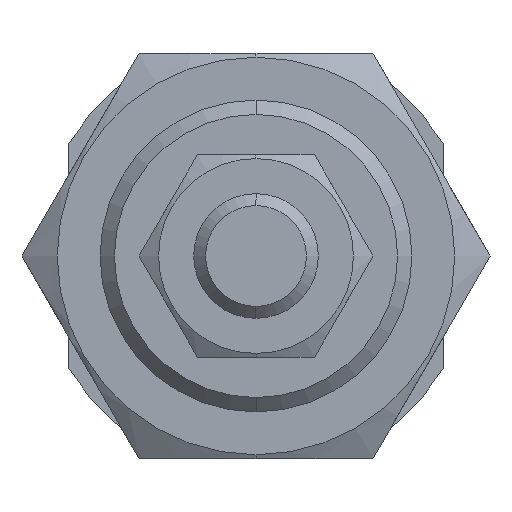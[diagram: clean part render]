
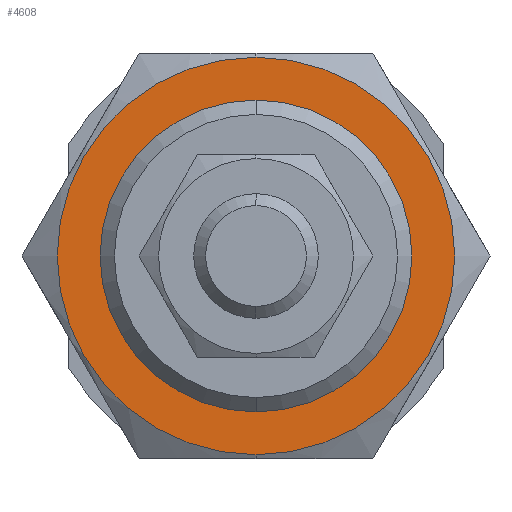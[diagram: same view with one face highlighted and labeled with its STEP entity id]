
A CAD part, left-side view. The second image highlights one B-rep face of the part: STEP entity #4608.
In plain terms, the highlighted planar face has unit normal (-1, 0, 0).
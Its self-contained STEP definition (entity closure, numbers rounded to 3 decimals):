
#135 = AXIS2_PLACEMENT_3D ( 'NONE', #2347, #2754, #1905 ) ;
#202 = AXIS2_PLACEMENT_3D ( 'NONE', #1641, #5344, #4572 ) ;
#298 = PLANE ( 'NONE',  #202 ) ;
#347 = FACE_OUTER_BOUND ( 'NONE', #364, .T. ) ;
#364 = EDGE_LOOP ( 'NONE', ( #3286, #2235 ) ) ;
#365 = VERTEX_POINT ( 'NONE', #1446 ) ;
#576 = VERTEX_POINT ( 'NONE', #3566 ) ;
#631 = EDGE_CURVE ( 'NONE', #3049, #576, #1173, .T. ) ;
#792 = AXIS2_PLACEMENT_3D ( 'NONE', #4427, #1520, #4456 ) ;
#804 = CARTESIAN_POINT ( 'NONE',  ( -11., 0., 0. ) ) ;
#962 = CARTESIAN_POINT ( 'NONE',  ( -11., 0., 10. ) ) ;
#1064 = VERTEX_POINT ( 'NONE', #2662 ) ;
#1137 = DIRECTION ( 'NONE',  ( 0., 0., -1. ) ) ;
#1173 = CIRCLE ( 'NONE', #135, 10. ) ;
#1327 = CIRCLE ( 'NONE', #792, 12.75 ) ;
#1446 = CARTESIAN_POINT ( 'NONE',  ( -11., 0., 12.75 ) ) ;
#1520 = DIRECTION ( 'NONE',  ( 1., 0., 0. ) ) ;
#1641 = CARTESIAN_POINT ( 'NONE',  ( -11., 0., 0. ) ) ;
#1905 = DIRECTION ( 'NONE',  ( 0., 0., -1. ) ) ;
#2024 = CARTESIAN_POINT ( 'NONE',  ( -11., 0., 0. ) ) ;
#2032 = ORIENTED_EDGE ( 'NONE', *, *, #631, .T. ) ;
#2206 = CIRCLE ( 'NONE', #3450, 10. ) ;
#2235 = ORIENTED_EDGE ( 'NONE', *, *, #2511, .F. ) ;
#2347 = CARTESIAN_POINT ( 'NONE',  ( -11., 0., 0. ) ) ;
#2484 = DIRECTION ( 'NONE',  ( 0., 0., -1. ) ) ;
#2511 = EDGE_CURVE ( 'NONE', #365, #1064, #4362, .T. ) ;
#2533 = ORIENTED_EDGE ( 'NONE', *, *, #3200, .T. ) ;
#2662 = CARTESIAN_POINT ( 'NONE',  ( -11., 0., -12.75 ) ) ;
#2754 = DIRECTION ( 'NONE',  ( 1., 0., 0. ) ) ;
#3049 = VERTEX_POINT ( 'NONE', #962 ) ;
#3200 = EDGE_CURVE ( 'NONE', #576, #3049, #2206, .T. ) ;
#3286 = ORIENTED_EDGE ( 'NONE', *, *, #3369, .F. ) ;
#3339 = FACE_BOUND ( 'NONE', #4065, .T. ) ;
#3369 = EDGE_CURVE ( 'NONE', #1064, #365, #1327, .T. ) ;
#3450 = AXIS2_PLACEMENT_3D ( 'NONE', #2024, #3745, #1137 ) ;
#3566 = CARTESIAN_POINT ( 'NONE',  ( -11., 0., -10. ) ) ;
#3745 = DIRECTION ( 'NONE',  ( 1., 0., 0. ) ) ;
#4065 = EDGE_LOOP ( 'NONE', ( #2032, #2533 ) ) ;
#4090 = AXIS2_PLACEMENT_3D ( 'NONE', #804, #5053, #2484 ) ;
#4362 = CIRCLE ( 'NONE', #4090, 12.75 ) ;
#4427 = CARTESIAN_POINT ( 'NONE',  ( -11., 0., 0. ) ) ;
#4456 = DIRECTION ( 'NONE',  ( 0., 0., -1. ) ) ;
#4572 = DIRECTION ( 'NONE',  ( 0., 1., 0. ) ) ;
#4608 = ADVANCED_FACE ( 'NONE', ( #347, #3339 ), #298, .F. ) ;
#5053 = DIRECTION ( 'NONE',  ( 1., 0., 0. ) ) ;
#5344 = DIRECTION ( 'NONE',  ( 1., 0., 0. ) ) ;
